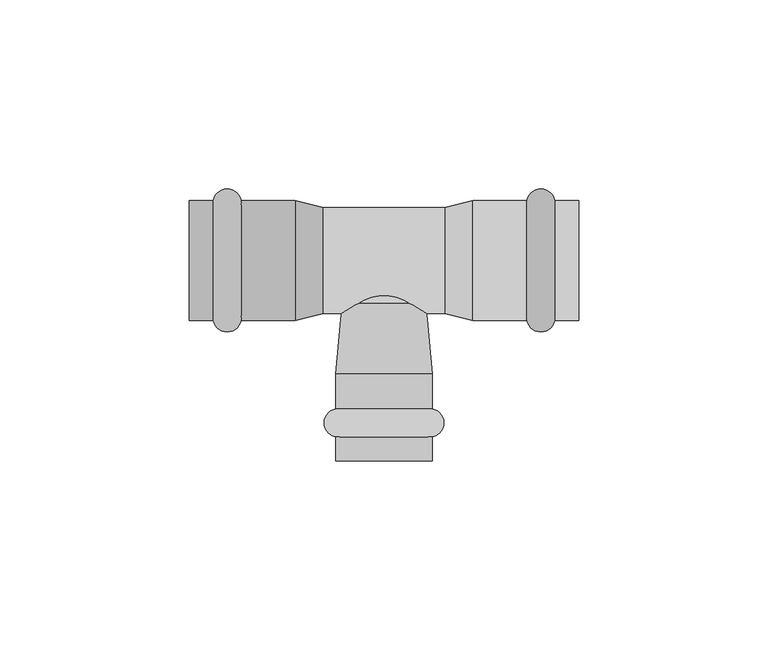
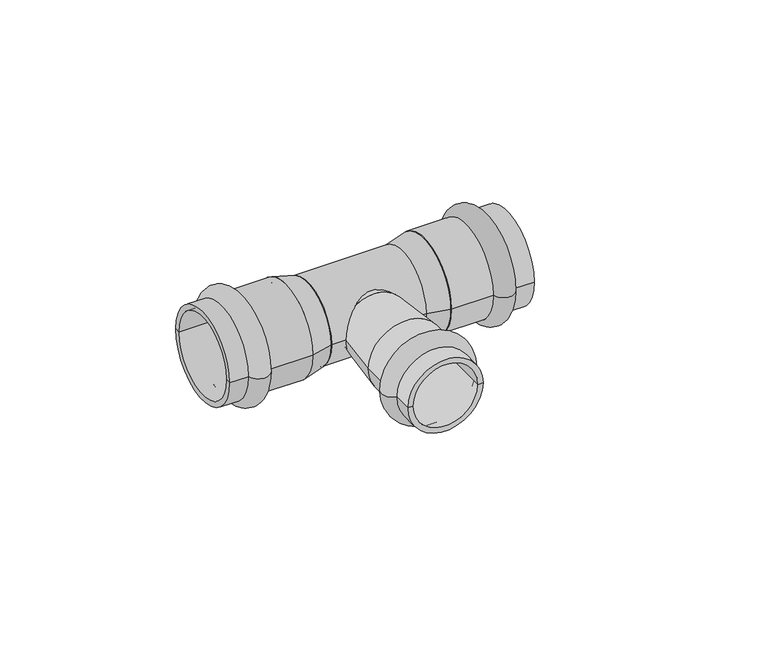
"""IFC4 building model written with IfcOpenShell, lengths in millimetres: pipe fitting geometry, VALTEC_VTi.931.I_Тройник_Ннержавеющая сталь : VTi.931.I."""

from ifc_helpers import new_model, si_unit, point, frame, origin, origin_2d, place, context, project, spatial, polyline, circle_curve, ellipse_curve, trimmed, segment, composite_curve, outline, extrude, source, transform, mapped, element, save
from ifc_brep_helpers import plane_surface, cylinder_surface, revolved_surface, advanced_brep


def pipe_fitting_41302708(model_context):
    return source(origin(), model_context, "Body", "SolidModel", [
        advanced_brep(
        [(12.8, -46.6242346, 0.0), (-12.8, -46.6242346, 0.0), (-12.8, -39.2757654, 0.0), (12.8, -39.2757654, 0.0), (12.8, -53.0, 0.0), (-12.8, -53.0, 0.0), (11.0, -53.0, 0.0), (-11.0, -53.0, 0.0), (11.0, -30.0, 0.0), (-11.0, -30.0, 0.0), (12.8, -30.0, 0.0), (-12.8, -30.0, 0.0)],
        [
            (0, 1, circle_curve(frame((0.0, -46.6242346, 0.0), z_axis=(0.0, 1.0, 0.0), x_axis=(-1.0, 0.0, 0.0)), 12.8)),
            (1, 2, circle_curve(frame((-12.05, -42.95, 0.0), z_axis=(0.0, 0.0, -1.0), x_axis=(0.0, 1.0, 0.0)), 3.75)),
            (2, 3, circle_curve(frame((0.0, -39.2757654, 0.0), z_axis=(0.0, -1.0, 0.0), x_axis=(-1.0, 0.0, 0.0)), 12.8)),
            (3, 0, circle_curve(frame((12.05, -42.95, 0.0), z_axis=(0.0, 0.0, -1.0), x_axis=(0.0, 1.0, 0.0)), 3.75)),
            (1, 0, circle_curve(frame((0.0, -46.6242346, 0.0), z_axis=(0.0, 1.0, 0.0), x_axis=(-1.0, 0.0, 0.0)), 12.8)),
            (3, 2, circle_curve(frame((0.0, -39.2757654, 0.0), z_axis=(0.0, -1.0, 0.0), x_axis=(-1.0, 0.0, 0.0)), 12.8)),
            (4, 5, circle_curve(frame((0.0, -53.0, 0.0), z_axis=(0.0, 1.0, 0.0), x_axis=(-1.0, 0.0, 0.0)), 12.8)),
            (5, 1),
            (0, 4),
            (5, 4, circle_curve(frame((0.0, -53.0, 0.0), z_axis=(0.0, 1.0, 0.0), x_axis=(-1.0, 0.0, 0.0)), 12.8)),
            (6, 7, circle_curve(frame((0.0, -53.0, 0.0), z_axis=(0.0, 1.0, 0.0), x_axis=(-1.0, 0.0, 0.0)), 11.0)),
            (7, 5),
            (4, 6),
            (7, 6, circle_curve(frame((0.0, -53.0, 0.0), z_axis=(0.0, 1.0, 0.0), x_axis=(-1.0, 0.0, 0.0)), 11.0)),
            (8, 9, circle_curve(frame((0.0, -30.0, 0.0), z_axis=(0.0, 1.0, 0.0), x_axis=(-1.0, 0.0, 0.0)), 11.0)),
            (9, 7),
            (6, 8),
            (9, 8, circle_curve(frame((0.0, -30.0, 0.0), z_axis=(0.0, 1.0, 0.0), x_axis=(-1.0, 0.0, 0.0)), 11.0)),
            (10, 11, circle_curve(frame((0.0, -30.0, 0.0), z_axis=(0.0, 1.0, 0.0), x_axis=(-1.0, 0.0, 0.0)), 12.8)),
            (11, 9),
            (8, 10),
            (11, 10, circle_curve(frame((0.0, -30.0, 0.0), z_axis=(0.0, 1.0, 0.0), x_axis=(-1.0, 0.0, 0.0)), 12.8)),
            (2, 11),
            (10, 3),
        ],
        [
            revolved_surface(trimmed(ellipse_curve(frame((-12.05, -42.95, 0.0), z_axis=(0.0, 0.0, 1.0), x_axis=(0.0, 1.0, 0.0)), 3.75, 3.75), [point((-12.8, -39.2757654, 0.0))], [point((-12.8, -46.6242346, 0.0))], True, "CARTESIAN"), (0.0, -56.5364426, 0.0), (0.0, -1.0, 0.0)),
            cylinder_surface(frame((0.0, -56.5364426, 0.0), z_axis=(0.0, -1.0, 0.0), x_axis=(-1.0, 0.0, 0.0)), 12.8),
            plane_surface(frame((0.0, -53.0, 0.0), z_axis=(0.0, -1.0, 0.0), x_axis=(-1.0, 0.0, 0.0))),
            revolved_surface(polyline([(-11.0, -53.0, 0.0), (-11.0, -30.0, 0.0)]), (0.0, -56.5364426, 0.0), (0.0, -1.0, 0.0)),
            plane_surface(frame((0.0, -30.0, 0.0), z_axis=(0.0, 1.0, 0.0), x_axis=(-1.0, 0.0, 0.0))),
        ],
        [
            (0, [[1, 2, 3, 4]]),
            (0, [[5, -4, 6, -2]]),
            (1, [[7, 8, -1, 9]]),
            (1, [[10, -9, -5, -8]]),
            (2, [[11, 12, -7, 13]]),
            (2, [[14, -13, -10, -12]]),
            (3, [[15, 16, -11, 17]]),
            (3, [[18, -17, -14, -16]]),
            (4, [[19, 20, -15, 21]]),
            (4, [[22, -21, -18, -20]]),
            (1, [[-3, 23, -19, 24]]),
            (1, [[-6, -24, -22, -23]]),
        ],
    ),
        advanced_brep(
        [(45.1242346, 15.9, 0.0), (45.1242346, -15.9, 0.0), (37.7757654, -15.9, 0.0), (37.7757654, 15.9, 0.0), (51.5, 15.9, 0.0), (51.5, -15.9, 0.0), (51.5, 14.0, 0.0), (51.5, -14.0, 0.0), (23.5, 14.0, 0.0), (23.5, -14.0, 0.0), (23.5, 15.9, 0.0), (23.5, -15.9, 0.0)],
        [
            (0, 1, circle_curve(frame((45.1242346, 0.0, 0.0), z_axis=(-1.0, 0.0, 0.0), x_axis=(0.0, -1.0, 0.0)), 15.9)),
            (1, 2, circle_curve(frame((41.45, -15.15, 0.0), z_axis=(0.0, 0.0, -1.0), x_axis=(-1.0, 0.0, 0.0)), 3.75)),
            (2, 3, circle_curve(frame((37.7757654, 0.0, 0.0), z_axis=(1.0, 0.0, 0.0), x_axis=(0.0, -1.0, 0.0)), 15.9)),
            (3, 0, circle_curve(frame((41.45, 15.15, 0.0), z_axis=(0.0, 0.0, -1.0), x_axis=(-1.0, 0.0, 0.0)), 3.75)),
            (1, 0, circle_curve(frame((45.1242346, 0.0, 0.0), z_axis=(-1.0, 0.0, 0.0), x_axis=(0.0, -1.0, 0.0)), 15.9)),
            (3, 2, circle_curve(frame((37.7757654, 0.0, 0.0), z_axis=(1.0, 0.0, 0.0), x_axis=(0.0, -1.0, 0.0)), 15.9)),
            (4, 5, circle_curve(frame((51.5, 0.0, 0.0), z_axis=(-1.0, 0.0, 0.0), x_axis=(0.0, -1.0, 0.0)), 15.9)),
            (5, 1),
            (0, 4),
            (5, 4, circle_curve(frame((51.5, 0.0, 0.0), z_axis=(-1.0, 0.0, 0.0), x_axis=(0.0, -1.0, 0.0)), 15.9)),
            (6, 7, circle_curve(frame((51.5, 0.0, 0.0), z_axis=(-1.0, 0.0, 0.0), x_axis=(0.0, -1.0, 0.0)), 14.0)),
            (7, 5),
            (4, 6),
            (7, 6, circle_curve(frame((51.5, 0.0, 0.0), z_axis=(-1.0, 0.0, 0.0), x_axis=(0.0, -1.0, 0.0)), 14.0)),
            (8, 9, circle_curve(frame((23.5, 0.0, 0.0), z_axis=(-1.0, 0.0, 0.0), x_axis=(0.0, -1.0, 0.0)), 14.0)),
            (9, 7),
            (6, 8),
            (9, 8, circle_curve(frame((23.5, 0.0, 0.0), z_axis=(-1.0, 0.0, 0.0), x_axis=(0.0, -1.0, 0.0)), 14.0)),
            (10, 11, circle_curve(frame((23.5, 0.0, 0.0), z_axis=(-1.0, 0.0, 0.0), x_axis=(0.0, -1.0, 0.0)), 15.9)),
            (11, 9),
            (8, 10),
            (11, 10, circle_curve(frame((23.5, 0.0, 0.0), z_axis=(-1.0, 0.0, 0.0), x_axis=(0.0, -1.0, 0.0)), 15.9)),
            (2, 11),
            (10, 3),
        ],
        [
            revolved_surface(trimmed(ellipse_curve(frame((41.45, -15.15, 0.0), z_axis=(0.0, 0.0, 1.0), x_axis=(-1.0, 0.0, 0.0)), 3.75, 3.75), [point((37.7757654, -15.9, 0.0))], [point((45.1242346, -15.9, 0.0))], True, "CARTESIAN"), (55.0364426, 0.0, 0.0), (1.0, 0.0, 0.0)),
            cylinder_surface(frame((55.0364426, 0.0, 0.0), z_axis=(1.0, 0.0, 0.0), x_axis=(0.0, -1.0, 0.0)), 15.9),
            plane_surface(frame((51.5, 0.0, 0.0), z_axis=(1.0, 0.0, 0.0), x_axis=(0.0, -1.0, 0.0))),
            revolved_surface(polyline([(51.5, -14.0, 0.0), (23.5, -14.0, 0.0)]), (55.0364426, 0.0, 0.0), (1.0, 0.0, 0.0)),
            plane_surface(frame((23.5, 0.0, 0.0), z_axis=(-1.0, 0.0, 0.0), x_axis=(0.0, -1.0, 0.0))),
        ],
        [
            (0, [[1, 2, 3, 4]]),
            (0, [[5, -4, 6, -2]]),
            (1, [[7, 8, -1, 9]]),
            (1, [[10, -9, -5, -8]]),
            (2, [[11, 12, -7, 13]]),
            (2, [[14, -13, -10, -12]]),
            (3, [[15, 16, -11, 17]]),
            (3, [[18, -17, -14, -16]]),
            (4, [[19, 20, -15, 21]]),
            (4, [[22, -21, -18, -20]]),
            (1, [[-3, 23, -19, 24]]),
            (1, [[-6, -24, -22, -23]]),
        ],
    ),
        advanced_brep(
        [(-45.1242346, -15.9, 0.0), (-45.1242346, 15.9, 0.0), (-37.7757654, 15.9, 0.0), (-37.7757654, -15.9, 0.0), (-51.5, -15.9, 0.0), (-51.5, 15.9, 0.0), (-51.5, -14.0, 0.0), (-51.5, 14.0, 0.0), (-23.5, -14.0, 0.0), (-23.5, 14.0, 0.0), (-23.5, -15.9, 0.0), (-23.5, 15.9, 0.0)],
        [
            (0, 1, circle_curve(frame((-45.1242346, 0.0, 0.0), z_axis=(1.0, 0.0, 0.0), x_axis=(0.0, 1.0, 0.0)), 15.9)),
            (1, 2, circle_curve(frame((-41.45, 15.15, 0.0), z_axis=(0.0, 0.0, -1.0), x_axis=(1.0, 0.0, 0.0)), 3.75)),
            (2, 3, circle_curve(frame((-37.7757654, 0.0, 0.0), z_axis=(-1.0, 0.0, 0.0), x_axis=(0.0, 1.0, 0.0)), 15.9)),
            (3, 0, circle_curve(frame((-41.45, -15.15, 0.0), z_axis=(0.0, 0.0, -1.0), x_axis=(1.0, 0.0, 0.0)), 3.75)),
            (1, 0, circle_curve(frame((-45.1242346, 0.0, 0.0), z_axis=(1.0, 0.0, 0.0), x_axis=(0.0, 1.0, 0.0)), 15.9)),
            (3, 2, circle_curve(frame((-37.7757654, 0.0, 0.0), z_axis=(-1.0, 0.0, 0.0), x_axis=(0.0, 1.0, 0.0)), 15.9)),
            (4, 5, circle_curve(frame((-51.5, 0.0, 0.0), z_axis=(1.0, 0.0, 0.0), x_axis=(0.0, 1.0, 0.0)), 15.9)),
            (5, 1),
            (0, 4),
            (5, 4, circle_curve(frame((-51.5, 0.0, 0.0), z_axis=(1.0, 0.0, 0.0), x_axis=(0.0, 1.0, 0.0)), 15.9)),
            (6, 7, circle_curve(frame((-51.5, 0.0, 0.0), z_axis=(1.0, 0.0, 0.0), x_axis=(0.0, 1.0, 0.0)), 14.0)),
            (7, 5),
            (4, 6),
            (7, 6, circle_curve(frame((-51.5, 0.0, 0.0), z_axis=(1.0, 0.0, 0.0), x_axis=(0.0, 1.0, 0.0)), 14.0)),
            (8, 9, circle_curve(frame((-23.5, 0.0, 0.0), z_axis=(1.0, 0.0, 0.0), x_axis=(0.0, 1.0, 0.0)), 14.0)),
            (9, 7),
            (6, 8),
            (9, 8, circle_curve(frame((-23.5, 0.0, 0.0), z_axis=(1.0, 0.0, 0.0), x_axis=(0.0, 1.0, 0.0)), 14.0)),
            (10, 11, circle_curve(frame((-23.5, 0.0, 0.0), z_axis=(1.0, 0.0, 0.0), x_axis=(0.0, 1.0, 0.0)), 15.9)),
            (11, 9),
            (8, 10),
            (11, 10, circle_curve(frame((-23.5, 0.0, 0.0), z_axis=(1.0, 0.0, 0.0), x_axis=(0.0, 1.0, 0.0)), 15.9)),
            (2, 11),
            (10, 3),
        ],
        [
            revolved_surface(trimmed(ellipse_curve(frame((-41.45, 15.15, 0.0), z_axis=(0.0, 0.0, 1.0), x_axis=(1.0, 0.0, 0.0)), 3.75, 3.75), [point((-37.7757654, 15.9, 0.0))], [point((-45.1242346, 15.9, 0.0))], True, "CARTESIAN"), (-55.0364426, 0.0, 0.0), (-1.0, 0.0, 0.0)),
            cylinder_surface(frame((-55.0364426, 0.0, 0.0), z_axis=(-1.0, 0.0, 0.0), x_axis=(0.0, 1.0, 0.0)), 15.9),
            plane_surface(frame((-51.5, 0.0, 0.0), z_axis=(-1.0, 0.0, 0.0), x_axis=(0.0, 1.0, 0.0))),
            revolved_surface(polyline([(-51.5, 14.0, 0.0), (-23.5, 14.0, 0.0)]), (-55.0364426, 0.0, 0.0), (-1.0, 0.0, 0.0)),
            plane_surface(frame((-23.5, 0.0, 0.0), z_axis=(1.0, 0.0, 0.0), x_axis=(0.0, 1.0, 0.0))),
        ],
        [
            (0, [[1, 2, 3, 4]]),
            (0, [[5, -4, 6, -2]]),
            (1, [[7, 8, -1, 9]]),
            (1, [[10, -9, -5, -8]]),
            (2, [[11, 12, -7, 13]]),
            (2, [[14, -13, -10, -12]]),
            (3, [[15, 16, -11, 17]]),
            (3, [[18, -17, -14, -16]]),
            (4, [[19, 20, -15, 21]]),
            (4, [[22, -21, -18, -20]]),
            (1, [[-3, 23, -19, 24]]),
            (1, [[-6, -24, -22, -23]]),
        ],
    ),
        extrude(outline(composite_curve([segment(trimmed(circle_curve(origin_2d(), 14.0), [point((-14.0, 0.0))], [point((14.0, 0.0))], False, "CARTESIAN"), True, "CONTINUOUS"), segment(trimmed(circle_curve(origin_2d(), 14.0), [point((14.0, 0.0))], [point((-14.0, 0.0))], False, "CARTESIAN"), True, "CONTINUOUS")], self_intersect=False)), frame((-16.0, 0.0, 0.0), z_axis=(1.0, 0.0, 0.0), x_axis=(0.0, 1.0, 0.0)), (0.0, 0.0, 1.0), 32.0),
        advanced_brep(
        [(-12.8, -30.0, 0.0), (12.8, -30.0, 0.0), (-11.0, -11.3209826, 0.0), (11.0, -11.3209826, 0.0)],
        [
            (0, 1, circle_curve(frame((0.0, -30.0, 0.0), z_axis=(0.0, -1.0, 0.0), x_axis=(-1.0, 0.0, 0.0)), 12.8)),
            (1, 0, circle_curve(frame((0.0, -30.0, 0.0), z_axis=(0.0, -1.0, 0.0), x_axis=(1.0, 0.0, 0.0)), 12.8)),
            (2, 3, circle_curve(frame((0.0, -11.3209826, 0.0), z_axis=(0.0, 1.0, 0.0), x_axis=(1.0, 0.0, 0.0)), 11.0)),
            (3, 2, circle_curve(frame((0.0, -11.3209826, 0.0), z_axis=(0.0, 1.0, 0.0), x_axis=(-1.0, 0.0, 0.0)), 11.0)),
            (3, 1),
            (0, 2),
        ],
        [
            plane_surface(frame((0.0, -30.0, 0.0), z_axis=(0.0, -1.0, 0.0), x_axis=(0.0, 0.0, 1.0))),
            plane_surface(frame((0.0, -11.3209826, 0.0), z_axis=(0.0, 1.0, 0.0), x_axis=(0.0, 0.0, 1.0))),
            revolved_surface(polyline([(11.000000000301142, -11.320982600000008, 0.0), (12.8, -30.0, 0.0)]), (0.0, 102.8285682, 0.0), (0.0, -1.0, 0.0)),
            revolved_surface(polyline([(-11.000000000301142, -11.320982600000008, 0.0), (-12.8, -30.0, 0.0)]), (0.0, 102.8285682, 0.0), (0.0, -1.0, 0.0)),
        ],
        [
            (0, [[1, 2]]),
            (1, [[3, 4]]),
            (2, [[-4, 5, -1, 6]]),
            (3, [[-3, -6, -2, -5]]),
        ],
    ),
        extrude(outline(composite_curve([segment(trimmed(circle_curve(origin_2d(), 11.0), [point((0.0, -11.0))], [point((0.0, 11.0))], False, "CARTESIAN"), True, "CONTINUOUS"), segment(trimmed(circle_curve(origin_2d(), 11.0), [point((0.0, 11.0))], [point((0.0, -11.0))], False, "CARTESIAN"), True, "CONTINUOUS")], self_intersect=False)), frame((0.0, -11.3209826, 0.0), z_axis=(0.0, 1.0, 0.0), x_axis=(0.0, 0.0, 1.0)), (0.0, 0.0, 1.0), 11.3209826),
        advanced_brep(
        [(23.5, -15.9, 0.0), (23.5, 15.9, 0.0), (16.0, -14.0, 0.0), (16.0, 14.0, 0.0)],
        [
            (0, 1, circle_curve(frame((23.5, 0.0, 0.0), z_axis=(1.0, 0.0, 0.0), x_axis=(0.0, -1.0, 0.0)), 15.9)),
            (1, 0, circle_curve(frame((23.5, 0.0, 0.0), z_axis=(1.0, 0.0, 0.0), x_axis=(0.0, 1.0, 0.0)), 15.9)),
            (2, 3, circle_curve(frame((16.0, 0.0, 0.0), z_axis=(-1.0, 0.0, 0.0), x_axis=(0.0, 1.0, 0.0)), 14.0)),
            (3, 2, circle_curve(frame((16.0, 0.0, 0.0), z_axis=(-1.0, 0.0, 0.0), x_axis=(0.0, -1.0, 0.0)), 14.0)),
            (3, 1),
            (0, 2),
        ],
        [
            plane_surface(frame((23.5, 0.0, 0.0), z_axis=(1.0, 0.0, 0.0), x_axis=(0.0, 0.0, 1.0))),
            plane_surface(frame((16.0, 0.0, 0.0), z_axis=(-1.0, 0.0, 0.0), x_axis=(0.0, 0.0, 1.0))),
            revolved_surface(polyline([(16.0, 14.000000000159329, 0.0), (23.5, 15.9, 0.0)]), (-39.2631579, 0.0, 0.0), (1.0, 0.0, 0.0)),
            revolved_surface(polyline([(16.0, -14.000000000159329, 0.0), (23.5, -15.9, 0.0)]), (-39.2631579, 0.0, 0.0), (1.0, 0.0, 0.0)),
        ],
        [
            (0, [[1, 2]]),
            (1, [[3, 4]]),
            (2, [[-4, 5, -1, 6]]),
            (3, [[-3, -6, -2, -5]]),
        ],
    ),
        advanced_brep(
        [(-23.5, -15.9, 0.0), (-23.5, 15.9, 0.0), (-16.0, -14.0, 0.0), (-16.0, 14.0, 0.0)],
        [
            (0, 1, circle_curve(frame((-23.5, 0.0, 0.0), z_axis=(-1.0, 0.0, 0.0), x_axis=(0.0, -1.0, 0.0)), 15.9)),
            (1, 0, circle_curve(frame((-23.5, 0.0, 0.0), z_axis=(-1.0, 0.0, 0.0), x_axis=(0.0, 1.0, 0.0)), 15.9)),
            (2, 3, circle_curve(frame((-16.0, 0.0, 0.0), z_axis=(1.0, 0.0, 0.0), x_axis=(0.0, 1.0, 0.0)), 14.0)),
            (3, 2, circle_curve(frame((-16.0, 0.0, 0.0), z_axis=(1.0, 0.0, 0.0), x_axis=(0.0, -1.0, 0.0)), 14.0)),
            (2, 0),
            (1, 3),
        ],
        [
            plane_surface(frame((-23.5, 0.0, 0.0), z_axis=(-1.0, 0.0, 0.0), x_axis=(0.0, 0.0, -1.0))),
            plane_surface(frame((-16.0, 0.0, 0.0), z_axis=(1.0, 0.0, 0.0), x_axis=(0.0, 0.0, -1.0))),
            revolved_surface(polyline([(-16.0, -14.000000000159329, 0.0), (-23.5, -15.9, 0.0)]), (39.2631579, 0.0, 0.0), (-1.0, 0.0, 0.0)),
            revolved_surface(polyline([(-16.0, 14.000000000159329, 0.0), (-23.5, 15.9, 0.0)]), (39.2631579, 0.0, 0.0), (-1.0, 0.0, 0.0)),
        ],
        [
            (0, [[1, 2]]),
            (1, [[3, 4]]),
            (2, [[-3, 5, -2, 6]]),
            (3, [[-4, -6, -1, -5]]),
        ],
    ),
    ])


if __name__ == "__main__":
    model = new_model("IFC4")
    model_context = context("Model", 3, world=origin())
    ifc_project = project(units=[si_unit("LENGTHUNIT", "METRE", prefix="MILLI")], contexts=[model_context])
    site = spatial("IfcSite", under=ifc_project)
    building = spatial("IfcBuilding", under=site)
    placement = place(None, origin())
    pipe_fitting_shape = pipe_fitting_41302708(model_context)
    element("IfcPipeFitting", 1, ObjectType="VALTEC_VTi.931.I_Тройник_Ннержавеющая сталь : VTi.931.I", at=placement, inside=building, context=model_context, shape_type="MappedRepresentation", body=[
        mapped(pipe_fitting_shape, transform((0.0, 0.0, 0.0), x_axis=(1.0, 0.0, 0.0), y_axis=(0.0, 1.0, 0.0), z_axis=(0.0, 0.0, 1.0))),
    ])
    save(model, "model.ifc")
